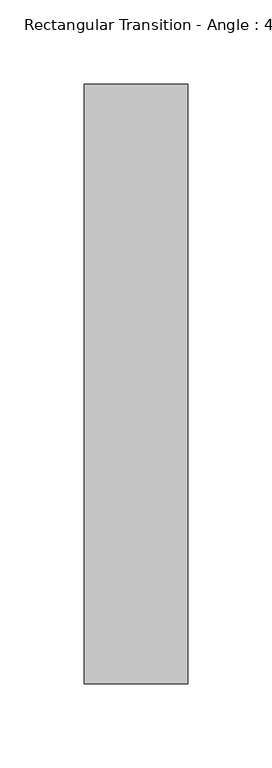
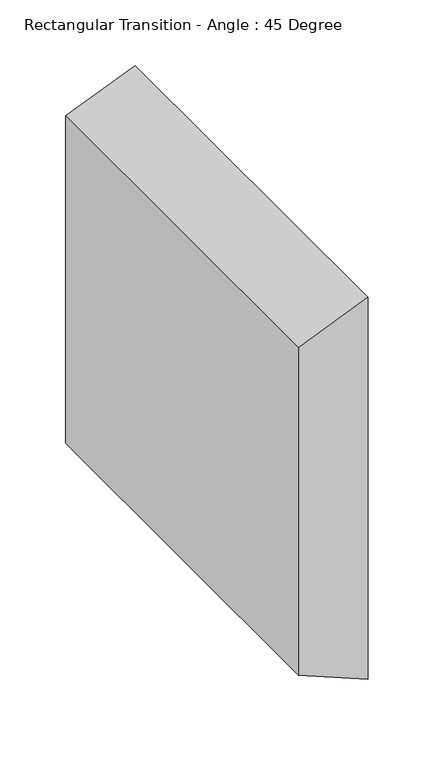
"""IFC4 building model written with IfcOpenShell, lengths in millimetres: duct fitting geometry, Rectangular Transition - Angle : 45 Degree."""

from ifc_helpers import new_model, si_unit, frame, origin, place, context, project, spatial, polyline, outline, extrude, source, transform, mapped, element, save


def rectangular_transition_angle_45_degree_97535d2c(model_context):
    return source(origin(), model_context, "Body", "SweptSolid", [
        extrude(outline(polyline([(152.4, 0.0), (-152.4, 0.0), (-177.8, 61.3210245), (177.8, 61.3210245), (152.4, 0.0)])), frame((0.0, -177.8, 0.0), z_axis=(0.0, 1.0, 0.0), x_axis=(0.0, 0.0, 1.0)), (0.0, 0.0, 1.0), 355.6),
    ])


if __name__ == "__main__":
    model = new_model("IFC4")
    model_context = context("Model", 3, world=origin())
    ifc_project = project(units=[si_unit("LENGTHUNIT", "METRE", prefix="MILLI")], contexts=[model_context])
    site = spatial("IfcSite", under=ifc_project)
    building = spatial("IfcBuilding", under=site)
    placement = place(None, origin())
    rectangular_transition_angle_45_degree_shape = rectangular_transition_angle_45_degree_97535d2c(model_context)
    element("IfcDuctFitting", 1, ObjectType="Rectangular Transition - Angle : 45 Degree", at=placement, inside=building, context=model_context, shape_type="MappedRepresentation", body=[
        mapped(rectangular_transition_angle_45_degree_shape, transform((0.0, 0.0, 0.0), x_axis=(1.0, 0.0, 0.0), y_axis=(0.0, 1.0, 0.0), z_axis=(0.0, 0.0, 1.0))),
    ])
    save(model, "model.ifc")
